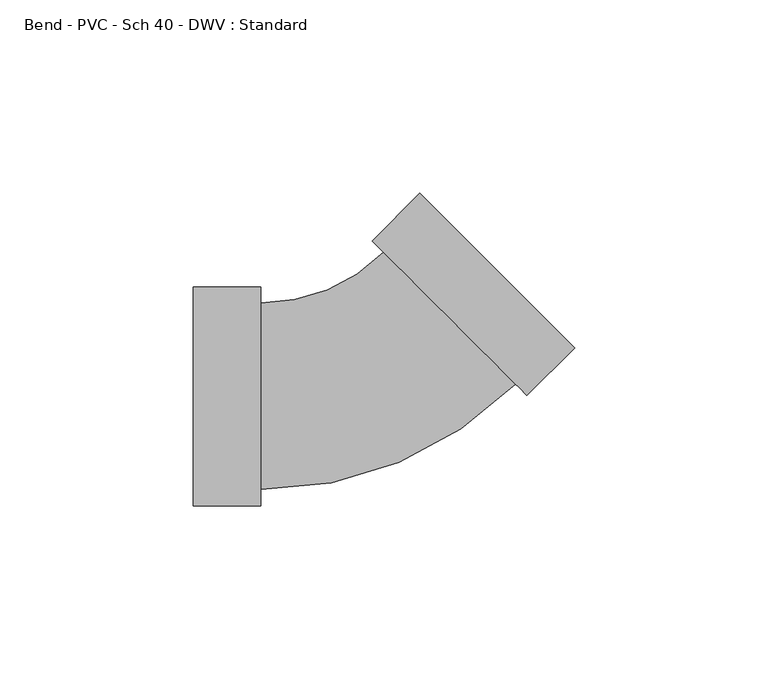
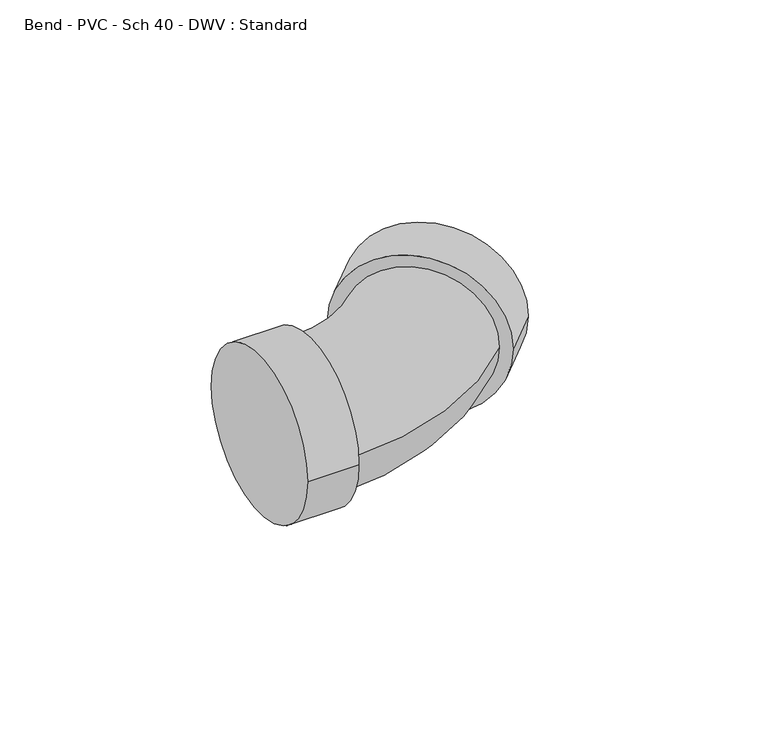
"""IFC4 building model written with IfcOpenShell, lengths in millimetres: pipe fitting geometry, Bend - PVC - Sch 40 - DWV : Standard."""

from ifc_helpers import new_model, si_unit, point, frame, origin, place, context, project, spatial, circle_curve, ellipse_curve, trimmed, source, transform, mapped, element, save
from ifc_brep_helpers import plane_surface, cylinder_surface, revolved_surface, advanced_brep


def bend_pvc_sch_40_dwv_standard_e59a9f3a(model_context):
    return source(origin(), model_context, "Body", "AdvancedBrep", [
        advanced_brep(
        [(-46.0248, -28.2829, 0.0), (-46.0248, 28.2829, 0.0), (-28.575, -28.2829, 0.0), (-28.575, 28.2829, 0.0), (-28.575, -24.13, 0.0), (-28.575, 24.13, 0.0), (3.1430896, 37.2680629, 0.0), (37.2680629, 3.1430896, 0.0), (40.2046067, 0.2065459, 0.0), (0.2065459, 40.2046067, 0.0), (52.5434786, 12.5454178, 0.0), (12.5454178, 52.5434786, 0.0)],
        [
            (0, 1, circle_curve(frame((-46.0248, 0.0, 0.0), z_axis=(-1.0, 0.0, 0.0), x_axis=(0.0, 1.0, 0.0)), 28.2829)),
            (1, 0, circle_curve(frame((-46.0248, 0.0, 0.0), z_axis=(-1.0, 0.0, 0.0), x_axis=(0.0, 1.0, 0.0)), 28.2829)),
            (2, 3, circle_curve(frame((-28.575, 0.0, 0.0), z_axis=(1.0, 0.0, 0.0), x_axis=(0.0, 1.0, 0.0)), 28.2829)),
            (3, 2, circle_curve(frame((-28.575, 0.0, 0.0), z_axis=(1.0, 0.0, 0.0), x_axis=(0.0, 1.0, 0.0)), 28.2829)),
            (4, 5, circle_curve(frame((-28.575, 0.0, 0.0), z_axis=(-1.0, 0.0, 0.0), x_axis=(0.0, 1.0, 0.0)), 24.13)),
            (5, 4, circle_curve(frame((-28.575, 0.0, 0.0), z_axis=(-1.0, 0.0, 0.0), x_axis=(0.0, 1.0, 0.0)), 24.13)),
            (0, 2),
            (3, 1),
            (6, 5, circle_curve(frame((-28.575, 68.9861525, 0.0), z_axis=(0.0, 0.0, -1.0), x_axis=(0.0, -1.0, 0.0)), 44.8561525)),
            (4, 7, circle_curve(frame((-28.575, 68.9861525, 0.0), z_axis=(0.0, 0.0, 1.0), x_axis=(0.0, -1.0, 0.0)), 93.1161525)),
            (7, 6, circle_curve(frame((20.2055763, 20.2055763, 0.0), z_axis=(-0.7071067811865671, -0.7071067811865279, 0.0), x_axis=(-0.7071067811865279, 0.7071067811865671, 0.0)), 24.13)),
            (6, 7, circle_curve(frame((20.2055763, 20.2055763, 0.0), z_axis=(-0.7071067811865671, -0.7071067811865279, 0.0), x_axis=(-0.7071067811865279, 0.7071067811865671, 0.0)), 24.13)),
            (8, 9, circle_curve(frame((20.2055763, 20.2055763, 0.0), z_axis=(-0.7071067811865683, -0.7071067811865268, 0.0), x_axis=(-0.7071067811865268, 0.7071067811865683, 0.0)), 28.2829)),
            (9, 8, circle_curve(frame((20.2055763, 20.2055763, 0.0), z_axis=(-0.7071067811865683, -0.7071067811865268, 0.0), x_axis=(-0.7071067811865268, 0.7071067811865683, 0.0)), 28.2829)),
            (10, 11, circle_curve(frame((32.5444482, 32.5444482, 0.0), z_axis=(0.7071067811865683, 0.7071067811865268, 0.0), x_axis=(-0.7071067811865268, 0.7071067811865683, 0.0)), 28.2829)),
            (11, 10, circle_curve(frame((32.5444482, 32.5444482, 0.0), z_axis=(0.7071067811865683, 0.7071067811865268, 0.0), x_axis=(-0.7071067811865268, 0.7071067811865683, 0.0)), 28.2829)),
            (8, 10),
            (11, 9),
        ],
        [
            plane_surface(frame((-46.0248, 0.0, 0.0), z_axis=(-1.0, 0.0, 0.0), x_axis=(0.0, 0.0, 1.0))),
            plane_surface(frame((-28.575, 0.0, 0.0), z_axis=(1.0, 0.0, 0.0), x_axis=(0.0, 0.0, 1.0))),
            cylinder_surface(frame((-46.0248, 0.0, 0.0), z_axis=(-1.0, 0.0, 0.0), x_axis=(0.0, 1.0, 0.0)), 28.2829),
            revolved_surface(trimmed(ellipse_curve(frame((-28.575, 0.0, 0.0), z_axis=(-1.0, 0.0, 0.0), x_axis=(0.0, 1.0, 0.0)), 24.13, 24.13), [point((-28.575, -24.13, 0.0))], [point((-28.575, 24.13, 0.0))], True, "CARTESIAN"), (-28.575, 68.9861525, 0.0), (0.0, 0.0, 1.0)),
            revolved_surface(trimmed(ellipse_curve(frame((-28.575, 0.0, 0.0), z_axis=(-1.0, 0.0, 0.0), x_axis=(0.0, 1.0, 0.0)), 24.13, 24.13), [point((-28.575, 24.13, 0.0))], [point((-28.575, -24.13, 0.0))], True, "CARTESIAN"), (-28.575, 68.9861525, 0.0), (0.0, 0.0, 1.0)),
            plane_surface(frame((20.2055763, 20.2055763, 0.0), z_axis=(-0.7071067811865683, -0.7071067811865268, 0.0), x_axis=(0.0, 0.0, 1.0))),
            plane_surface(frame((32.5444482, 32.5444482, 0.0), z_axis=(0.7071067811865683, 0.7071067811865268, 0.0), x_axis=(0.0, 0.0, 1.0))),
            cylinder_surface(frame((20.2055763, 20.2055763, 0.0), z_axis=(-0.7071067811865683, -0.7071067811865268, 0.0), x_axis=(-0.7071067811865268, 0.7071067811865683, 0.0)), 28.2829),
        ],
        [
            (0, [[1, 2]]),
            (1, [[3, 4], [5, 6]]),
            (2, [[-1, 7, -4, 8]]),
            (2, [[-2, -8, -3, -7]]),
            (3, [[9, -5, 10, 11]]),
            (4, [[-9, 12, -10, -6]]),
            (5, [[13, 14], [-11, -12]]),
            (6, [[15, 16]]),
            (7, [[-13, 17, -16, 18]]),
            (7, [[-14, -18, -15, -17]]),
        ],
    ),
    ])


if __name__ == "__main__":
    model = new_model("IFC4")
    model_context = context("Model", 3, world=origin())
    ifc_project = project(units=[si_unit("LENGTHUNIT", "METRE", prefix="MILLI")], contexts=[model_context])
    site = spatial("IfcSite", under=ifc_project)
    building = spatial("IfcBuilding", under=site)
    placement = place(None, origin())
    bend_pvc_sch_40_dwv_standard_shape = bend_pvc_sch_40_dwv_standard_e59a9f3a(model_context)
    element("IfcPipeFitting", 1, ObjectType="Bend - PVC - Sch 40 - DWV : Standard", at=placement, inside=building, context=model_context, shape_type="MappedRepresentation", body=[
        mapped(bend_pvc_sch_40_dwv_standard_shape, transform((0.0, 0.0, 0.0), x_axis=(1.0, 0.0, 0.0), y_axis=(0.0, 1.0, 0.0), z_axis=(0.0, 0.0, 1.0))),
    ])
    save(model, "model.ifc")
